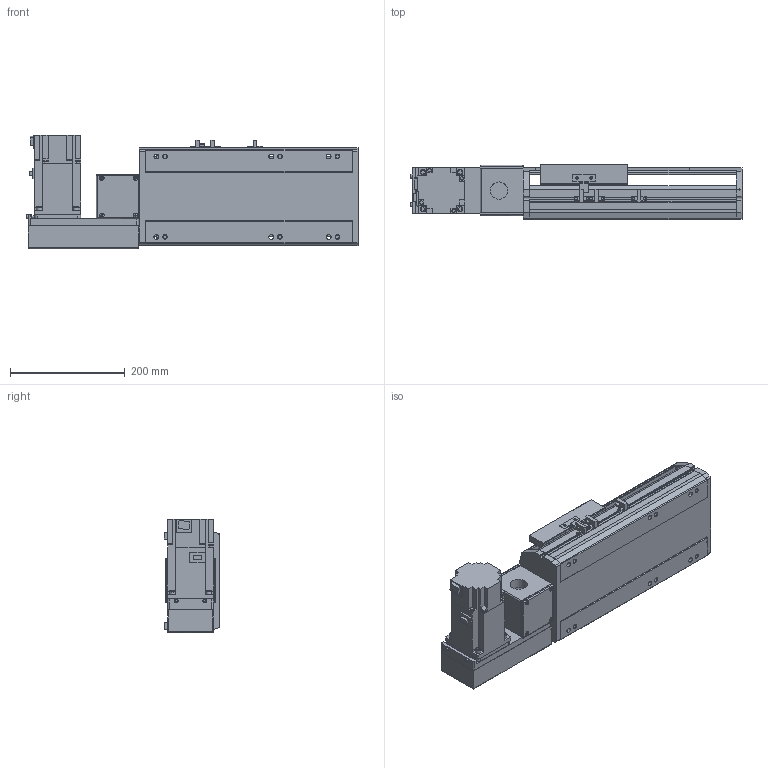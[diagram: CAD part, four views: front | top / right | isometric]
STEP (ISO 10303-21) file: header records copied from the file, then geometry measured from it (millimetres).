
FILE_DESCRIPTION( ( 'STEP AP214' ), '1' );
FILE_NAME( 'x:/temp/worker_4/temp/exporttempdir_2248_189_4m8bX/format_0/PBS170-P40-S100-L-T75-C1-N(0).stp', '2022-06-07T06:33:29', ( 'License CC BY-ND 4.0' ), ( 'CADENAS' ), ' ', 'PARTsolutions', ' ' );
FILE_SCHEMA( ( 'AUTOMOTIVE_DESIGN { 1 0 10303 214 1 1 1 1 }' ) );
Length unit declared in the file: millimetre
Products named in the file (7): PBS170-P40-S100-L-T75-C1-N(0); _PBS170-S100()_body; _PBS170T-L_motors; _T75-p1; _PBS170_sliser; _PBS170_plant; _PBS170_sensor
Assembly tree (8 placements, depth 2):
  PBS170-P40-S100-L-T75-C1-N(0)
    _PBS170-S100()_body
    _PBS170T-L_motors
    _T75-p1
    _PBS170_sliser
    _PBS170_plant
    _PBS170_sensor  x3
Bounding box: 578 x 97 x 197.3 mm (x, y, z)
Volume: 4576573.9 mm3; surface area: 666894.8 mm2
Topology: 8 solids, 8 shells, 1002 faces, 2675 edges, 1744 vertices
Faces by surface type: plane 657, cylinder 299, cone 36, sphere 8, torus 2
Full cylindrical faces by diameter (mm): 3.242 x4, 4 x2, 4.4 x4, 4.5 x6, 4.917 x4, 6 x9, 6.647 x14, 7 x2, 7.5 x4, 8 x8, 8.5 x6, 10 x4, 10.5 x6, 11 x2, 30 x2, 40 x1, 70 x1
Entity records: 36530 total; most frequent: CARTESIAN_POINT 5381, DIRECTION 4950, ORIENTED_EDGE 4728, EDGE_CURVE 2364, AXIS2_PLACEMENT_3D 1687, VERTEX_POINT 1610, LINE 1576, VECTOR 1576
